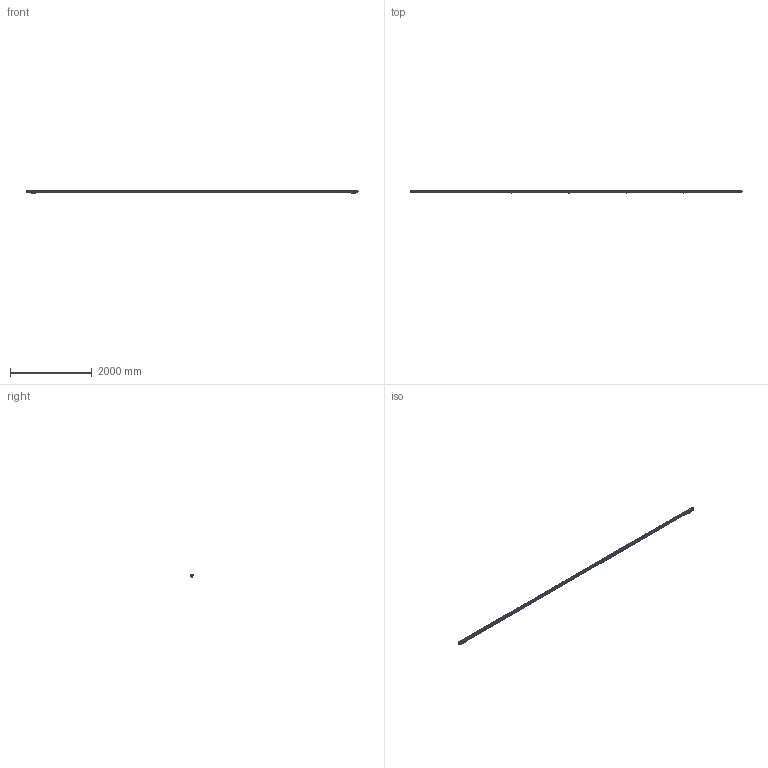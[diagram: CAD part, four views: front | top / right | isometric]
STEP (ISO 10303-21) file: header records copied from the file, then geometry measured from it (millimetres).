
FILE_DESCRIPTION(('Creo Elements/Direct Modeling STEP Export'),'2;1');
FILE_NAME('Regla Li-7840-M.stp','2021-12-15T11:18:42',(''),(''),'Creo Elements/Direct Modeling STEP processor for AP214 (Solid Model)','Creo Elements/Direct Modeling 19.0G 27-Nov-2017 (C) Parametric Technology GmbH','');
FILE_SCHEMA(('AUTOMOTIVE_DESIGN { 1 0 10303 214 1 1 1 1 }'));
Length unit declared in the file: millimetre
Products named in the file (8): MOD-K-M-Li; CABEZA.1.1; CABEZA.1; MOD-14-F-Li; MOD-14-F-Li.1; MOD-14-F-Li.1.1; MOD-22E-M-Li; Li-M-7840
Assembly tree (7 placements, depth 2):
  Li-M-7840
    MOD-22E-M-Li
    MOD-14-F-Li.1.1
    MOD-14-F-Li.1
    MOD-14-F-Li
    CABEZA.1
    CABEZA.1.1
    MOD-K-M-Li
Bounding box: 8141.61 x 51.5 x 87.8 mm (x, y, z)
Volume: 20874477.9 mm3; surface area: 2387217 mm2
Topology: 7 solids, 41 shells, 3643 faces, 10706 edges, 7118 vertices
Faces by surface type: cylinder 1803, plane 1446, cone 182, bspline 102, torus 90, sphere 20
Entity records: 148602 total; most frequent: CARTESIAN_POINT 47727, ORIENTED_EDGE 21364, DIRECTION 17395, EDGE_CURVE 10680, VERTEX_POINT 7118, AXIS2_PLACEMENT_3D 6093, VECTOR 5209, LINE 5209
